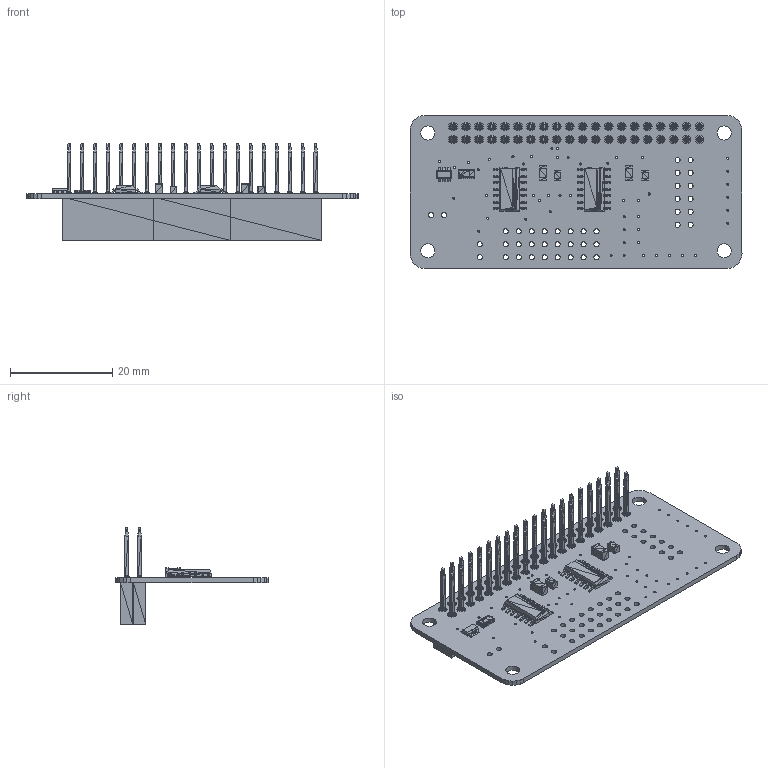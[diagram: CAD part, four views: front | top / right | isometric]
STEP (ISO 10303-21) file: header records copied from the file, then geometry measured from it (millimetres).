
FILE_DESCRIPTION(/* description */ (''),/* implementation_level */ '2;1');
FILE_NAME(/* name */ 'C:/Users/andrew/Desktop/3D Models/adc-differential-pi-2.0.step',/* time_stamp */ '2018-02-10T15:25:27+00:00',/* author */ ('and101'),/* organization */ (''),/* preprocessor_version */ 'ST-DEVELOPER v16.13',/* originating_system */ 'Autodesk Translation Framework v6.5.0.72',/* authorisation */ '');
FILE_SCHEMA (('AUTOMOTIVE_DESIGN { 1 0 10303 214 3 1 1 }'));
Products named in the file (8): adc-differential-pi-2.0; Board_adc-differential-pi; sot23-6; cap_0805; cap_1206; rescav-8_1.6x3.2x0; 40_way_header; soic-14_150mil
Assembly tree (10 placements, depth 2):
  adc-differential-pi-2.0
    Board_adc-differential-pi
    sot23-6
    cap_0805  x2
    cap_1206  x2
    rescav-8_1.6x3.2x0
    40_way_header
    soic-14_150mil  x2
Bounding box: 65 x 30 x 18.97 mm (x, y, z)
Volume: 4870.6 mm3; surface area: 9325.2 mm2
Topology: 148 solids, 148 shells, 27476 faces, 41824 edges, 14636 vertices
Faces by surface type: plane 27281, cylinder 159, bspline 36
Full cylindrical faces by diameter (mm): 0.406 x55, 1 x80, 2.75 x4
Entity records: 524024 total; most frequent: DIRECTION 93426, CARTESIAN_POINT 82102, ORIENTED_EDGE 80356, EDGE_CURVE 40178, LINE 39502, VECTOR 39502, AXIS2_PLACEMENT_3D 26962, EDGE_LOOP 26662
